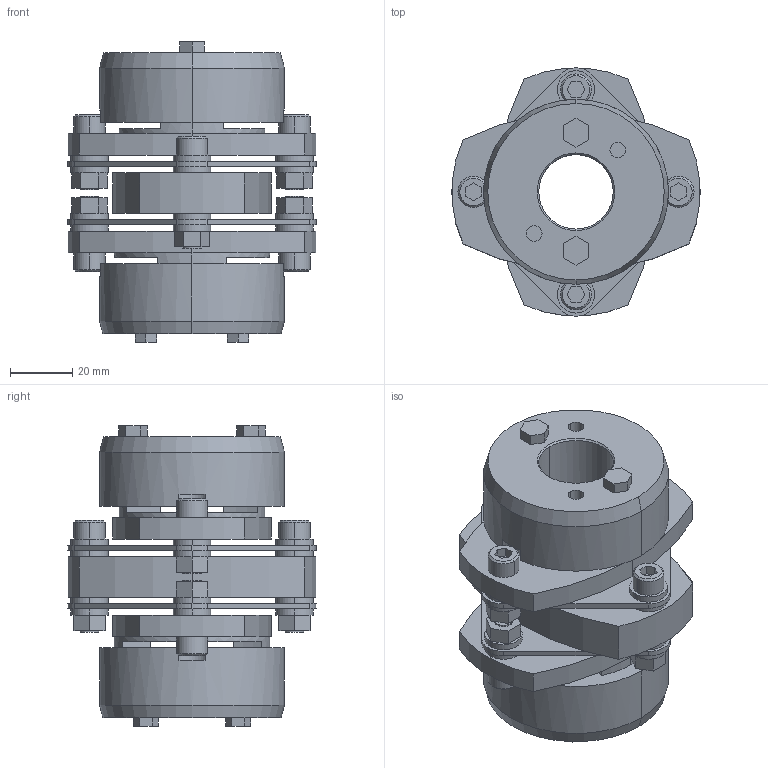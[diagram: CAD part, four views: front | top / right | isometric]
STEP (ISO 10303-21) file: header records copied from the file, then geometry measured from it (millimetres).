
FILE_DESCRIPTION((''),'2;1');
FILE_NAME('LCD-80T7-24×30.stp','2011-09-15T15:45:52',(''),(''),'AutoCAD STEP 2000i','AutoCAD 2000i',', , ');
FILE_SCHEMA(('CONFIG_CONTROL_DESIGN'));
Length unit declared in the file: millimetre
Products named in the file (12): LCD-80T7-24×30; 忣兜1; LC80T7-T030; LC80T7-T028; LC80T7-T024-1; LC80T7-T024; LC80T7-T022; LC80T7-T019-1; LC80T7-T019; LC80T7-T017-1; LC80T7-T017; LCD80-ITA
Assembly tree (11 placements, depth 2):
  LCD-80T7-24×30
    忣兜1
    LC80T7-T030
    LC80T7-T028
    LC80T7-T024-1
    LC80T7-T024
    LC80T7-T022
    LC80T7-T019-1
    LC80T7-T019
    LC80T7-T017-1
    LC80T7-T017
    LCD80-ITA
Bounding box: 80 x 79.95 x 96.8 mm (x, y, z)
Volume: 193547.5 mm3; surface area: 59477.5 mm2
Topology: 1 solids, 1 shells, 328 faces, 804 edges, 528 vertices
Faces by surface type: plane 180, cylinder 124, cone 24
Entity records: 10013 total; most frequent: DIRECTION 1780, CARTESIAN_POINT 1672, ORIENTED_EDGE 1608, EDGE_CURVE 804, AXIS2_PLACEMENT_3D 636, VERTEX_POINT 528, VECTOR 508, LINE 508
